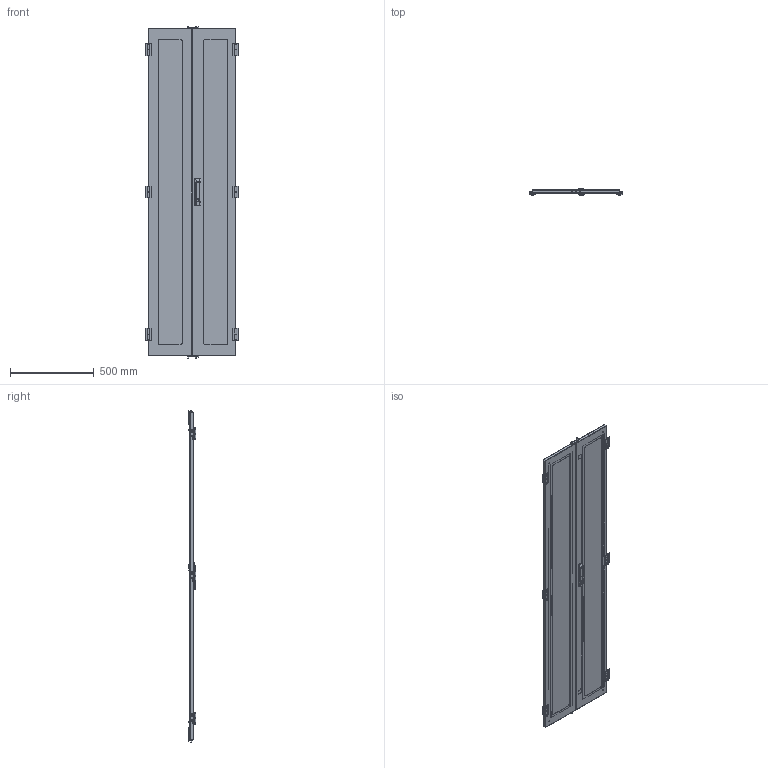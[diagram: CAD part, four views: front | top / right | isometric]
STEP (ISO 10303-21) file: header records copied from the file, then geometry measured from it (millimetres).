
FILE_DESCRIPTION(/* description */ ('Unknown'),/* implementation_level */ '2;1');
FILE_NAME(/* name */ 'C4D2477B',/* time_stamp */ '2025-02-13T09:58:49-05:00',/* author */ ('Unknown'),/* organization */ ('Unknown'),/* preprocessor_version */ 'ST-DEVELOPER v18.104',/* originating_system */ 'Solid Edge',/* authorisation */ 'Unknown');
FILE_SCHEMA (('AUTOMOTIVE_DESIGN { 1 0 10303 214 3 1 1 }','AUTOMOTIVE_DESIGN {1 0 10303 214 3 1 1}'));
Products named in the file (35): C4D2477B; COM57700-23; COM57778-35; std26020; COM55940-8; HNG14615; HNG14615-2; HNG14615-4; HNG14615-3; HNG14615-1; HNG14616; HNG14616-1; HNG14616-5; HNG14616-2; COM57697-23; COM57261; COM57778-30; MLD87968; 6_32 STEEL NYLON-INSERT LOCKNUT; 6_32 x 7_16 PAN HEAD PHILLIPS MACHINE SCREW; GRM109956; COM57513-44; COM57302-44B; RVT17753; WAM25493; COM57302-44A; COM57303; COM57435; GSK10053-1.50; STD21899; LOC88025
Assembly tree (61 placements, depth 4):
  C4D2477B
    COM57700-23
      COM57778-35  x4
      std26020  x2
      COM55940-8
      COM57700-23
    HNG14615  x3
      HNG14615-2
      HNG14615-4
      HNG14615-3
      HNG14615-1
    HNG14616  x3
      HNG14616-1
      HNG14616-5
        HNG14616-2
        HNG14615-3
      HNG14615-4
      HNG14615-1
    COM57697-23
      COM57261  x2
      std26020  x2
      COM55940-8
      COM57697-23
      COM57778-30  x2
      COM57778-35  x2
    MLD87968  x2
      6_32 STEEL NYLON-INSERT LOCKNUT
      6_32 x 7_16 PAN HEAD PHILLIPS MACHINE SCREW
      MLD87968
    GRM109956  x2
    COM57513-44
      COM57302-44B
      RVT17753  x2
      WAM25493  x2
      COM57302-44A
      COM57303
    COM57435  x2
      GSK10053-1.50
      STD21899
      COM57435
    LOC88025
Bounding box: 555.87 x 43.4 x 1979.88 mm (x, y, z)
Volume: 2491070 mm3; surface area: 3298901 mm2
Topology: 86 solids, 86 shells, 7502 faces, 20853 edges, 13966 vertices
Faces by surface type: plane 4223, cylinder 1980, bspline 563, sphere 289, torus 271, cone 176
Full cylindrical faces by diameter (mm): 2.821 x2, 2.937 x6, 3.1 x3, 3.175 x2, 3.505 x8, 4.166 x4, 4.191 x4, 4.2 x2, 4.5 x4, 4.641 x1, 4.651 x2, 4.775 x6, 4.8 x1, 4.978 x4, 5 x3, 5.08 x2, 5.2 x1, 5.5 x2, 5.969 x4, 6 x21, 6.1 x6, 6.2 x24, 6.35 x10, 6.5 x1, 6.6 x1, 6.731 x2, 6.858 x2, 8.89 x2, 9.3 x1, 9.95 x12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
Entity records: 139851 total; most frequent: CARTESIAN_POINT 47111, ORIENTED_EDGE 20260, DIRECTION 16727, EDGE_CURVE 10130, VERTEX_POINT 6755, AXIS2_PLACEMENT_3D 5723, LINE 5281, VECTOR 5281
